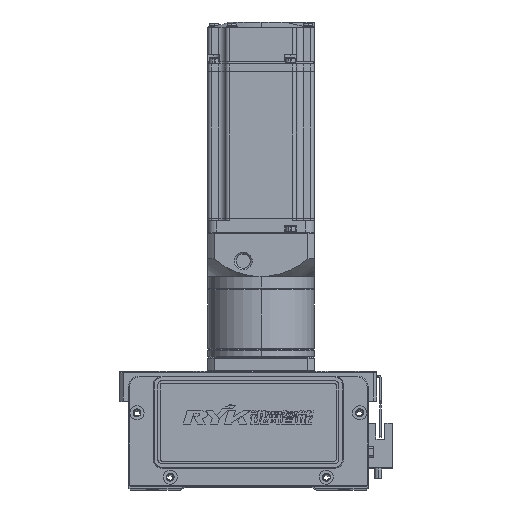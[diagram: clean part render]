
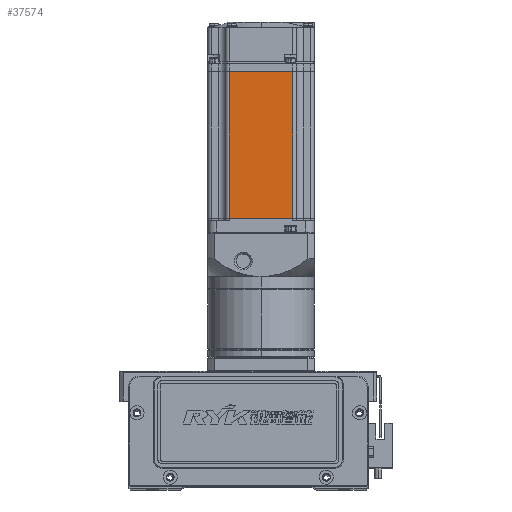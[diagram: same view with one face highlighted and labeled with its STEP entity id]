
A CAD part, top view. The second image highlights one B-rep face of the part: STEP entity #37574.
In plain terms, the highlighted planar face has unit normal (0, 0, 1).
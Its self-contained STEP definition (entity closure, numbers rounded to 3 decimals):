
#1530 = CARTESIAN_POINT ( 'NONE',  ( -90.45, -18., 30. ) ) ;
#2344 = CARTESIAN_POINT ( 'NONE',  ( -90.45, 0., 30. ) ) ;
#6038 = CARTESIAN_POINT ( 'NONE',  ( -6.5, -18., 30. ) ) ;
#6320 = VECTOR ( 'NONE', #31829, 1000. ) ;
#6860 = VERTEX_POINT ( 'NONE', #50395 ) ;
#7135 = ORIENTED_EDGE ( 'NONE', *, *, #45777, .F. ) ;
#8473 = CARTESIAN_POINT ( 'NONE',  ( -7.75, 0., 30. ) ) ;
#10752 = LINE ( 'NONE', #8473, #54751 ) ;
#13192 = EDGE_LOOP ( 'NONE', ( #31693, #23792, #16572, #7135 ) ) ;
#13445 = VERTEX_POINT ( 'NONE', #19494 ) ;
#16572 = ORIENTED_EDGE ( 'NONE', *, *, #24311, .T. ) ;
#18382 = DIRECTION ( 'NONE',  ( 0., 0., 1. ) ) ;
#19494 = CARTESIAN_POINT ( 'NONE',  ( -7.75, -18., 30. ) ) ;
#21601 = LINE ( 'NONE', #59800, #6320 ) ;
#21933 = DIRECTION ( 'NONE',  ( 0., -1., 0. ) ) ;
#23066 = DIRECTION ( 'NONE',  ( 1., 0., 0. ) ) ;
#23792 = ORIENTED_EDGE ( 'NONE', *, *, #58714, .T. ) ;
#24311 = EDGE_CURVE ( 'NONE', #45361, #42518, #34900, .T. ) ;
#24785 = DIRECTION ( 'NONE',  ( -1., 0., 0. ) ) ;
#30257 = AXIS2_PLACEMENT_3D ( 'NONE', #42405, #18382, #23066 ) ;
#31693 = ORIENTED_EDGE ( 'NONE', *, *, #36033, .F. ) ;
#31829 = DIRECTION ( 'NONE',  ( -1., 0., 0. ) ) ;
#34900 = LINE ( 'NONE', #2344, #35664 ) ;
#35664 = VECTOR ( 'NONE', #21933, 1000. ) ;
#36033 = EDGE_CURVE ( 'NONE', #6860, #13445, #10752, .T. ) ;
#37574 = ADVANCED_FACE ( 'NONE', ( #38194 ), #37622, .T. ) ;
#37622 = PLANE ( 'NONE',  #30257 ) ;
#38194 = FACE_OUTER_BOUND ( 'NONE', #13192, .T. ) ;
#38477 = LINE ( 'NONE', #6038, #59105 ) ;
#40774 = DIRECTION ( 'NONE',  ( 0., -1., 0. ) ) ;
#42405 = CARTESIAN_POINT ( 'NONE',  ( -6.5, -25., 30. ) ) ;
#42518 = VERTEX_POINT ( 'NONE', #1530 ) ;
#45361 = VERTEX_POINT ( 'NONE', #55589 ) ;
#45777 = EDGE_CURVE ( 'NONE', #13445, #42518, #38477, .T. ) ;
#50395 = CARTESIAN_POINT ( 'NONE',  ( -7.75, 18., 30. ) ) ;
#54751 = VECTOR ( 'NONE', #40774, 1000. ) ;
#55589 = CARTESIAN_POINT ( 'NONE',  ( -90.45, 18., 30. ) ) ;
#58714 = EDGE_CURVE ( 'NONE', #6860, #45361, #21601, .T. ) ;
#59105 = VECTOR ( 'NONE', #24785, 1000. ) ;
#59800 = CARTESIAN_POINT ( 'NONE',  ( -6.5, 18., 30. ) ) ;
